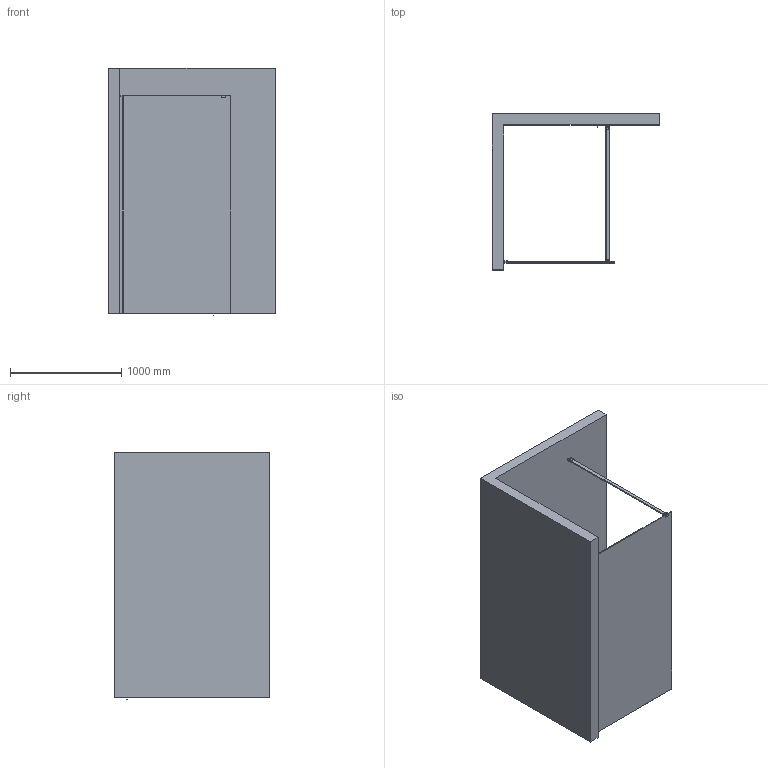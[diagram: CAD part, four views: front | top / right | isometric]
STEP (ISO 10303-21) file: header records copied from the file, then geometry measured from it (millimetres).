
FILE_DESCRIPTION((''),'2;1');
FILE_NAME('0-703510-1_ASM','2022-06-07T15:16:34',('M'),(''),'CREO PARAMETRIC BY PTC INC, 2017110','CREO PARAMETRIC BY PTC INC, 2017110','');
FILE_SCHEMA(('CONFIG_CONTROL_DESIGN'));
Length unit declared in the file: millimetre
Products named in the file (15): 00; 004; 0046; 20002; 0047; CTZG_ST4X30; M6-8; M4-5; 0048; 0; 0-703510-1_ASM
Assembly tree (22 placements, depth 2):
  0-703510-1_ASM
    00
    00
    004
    00
    00
    0046
    20002
    0047
    CTZG_ST4X30  x2
    M6-8  x2
    M4-5  x7
    0048
    00
    0
Bounding box: 1500 x 1400 x 2225.7 mm (x, y, z)
Volume: 632599779.4 mm3; surface area: 17484967.4 mm2
Topology: 22 solids, 22 shells, 626 faces, 1638 edges, 1072 vertices
Faces by surface type: cylinder 299, plane 191, bspline 120, cone 12, torus 4
Entity records: 22583 total; most frequent: CARTESIAN_POINT 15108, ORIENTED_EDGE 1598, DIRECTION 1297, EDGE_CURVE 799, VERTEX_POINT 525, AXIS2_PLACEMENT_3D 440, VECTOR 417, LINE 417
